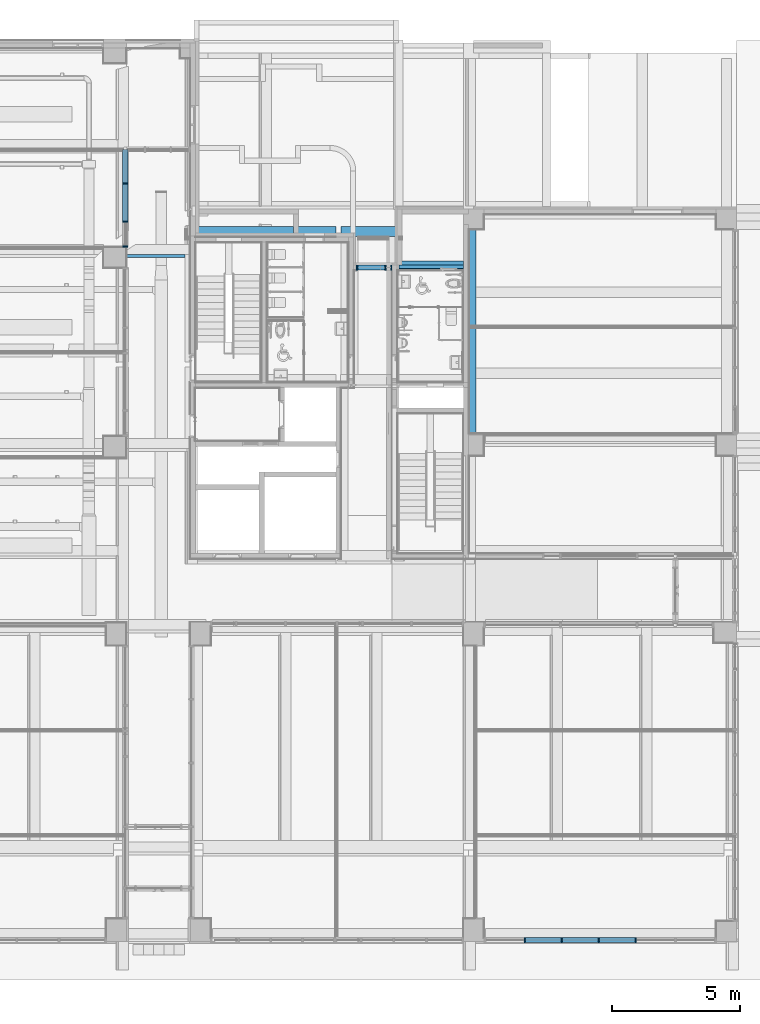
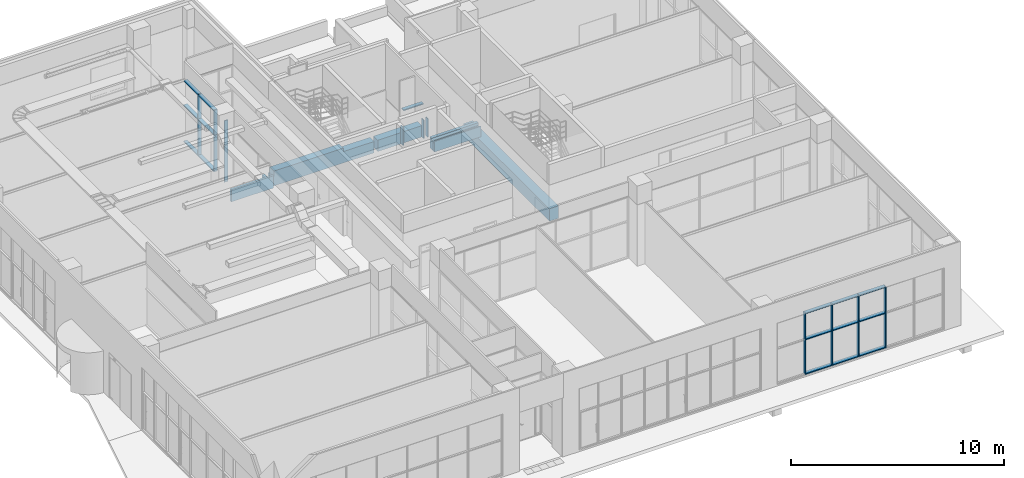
# One storey, part 10 of 100: 33 members, 5 beams, 3 elements without a shape of their own.
"""IFC2X3 building model written with IfcOpenShell, lengths in millimetres."""

from ifc_helpers import new_model, entity, si_unit, converted_unit, derived_unit, direction, frame, frame_2d, origin, origin_2d_with_axis, place, context, subcontext, project, spatial, polyline, rectangle, outline, extrude, source, transform, mapped, material, material_list, type_object, type_shapes, element, aggregate, save


model = new_model("IFC2X3")

# Units and contexts
model_context = context("Model", 3, precision=0.01, world=origin(), true_north=direction((6.123031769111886e-17, 1.0)))
body_context = subcontext(model_context, "Body", "Model", "MODEL_VIEW")
ifc_project = project(units=[si_unit("LENGTHUNIT", "METRE", prefix="MILLI"), si_unit("AREAUNIT", "SQUARE_METRE"), si_unit("VOLUMEUNIT", "CUBIC_METRE"), converted_unit("PLANEANGLEUNIT", "DEGREE", entity("IfcRatioMeasure", 0.017453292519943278), si_unit("PLANEANGLEUNIT", "RADIAN"), dimensions=[0, 0, 0, 0, 0, 0, 0]), si_unit("MASSUNIT", "GRAM", prefix="KILO"), derived_unit("MASSDENSITYUNIT", [(si_unit("MASSUNIT", "GRAM", prefix="KILO"), 1), (si_unit("LENGTHUNIT", "METRE"), -3)]), derived_unit("MOMENTOFINERTIAUNIT", [(si_unit("LENGTHUNIT", "METRE"), 4)]), si_unit("TIMEUNIT", "SECOND"), si_unit("FREQUENCYUNIT", "HERTZ"), si_unit("THERMODYNAMICTEMPERATUREUNIT", "DEGREE_CELSIUS"), derived_unit("THERMALTRANSMITTANCEUNIT", [(si_unit("MASSUNIT", "GRAM", prefix="KILO"), 1), (si_unit("THERMODYNAMICTEMPERATUREUNIT", "KELVIN"), -1), (si_unit("TIMEUNIT", "SECOND"), -3)]), derived_unit("VOLUMETRICFLOWRATEUNIT", [(si_unit("LENGTHUNIT", "METRE"), 3), (si_unit("TIMEUNIT", "SECOND"), -1)]), derived_unit("MASSFLOWRATEUNIT", [(si_unit("MASSUNIT", "GRAM", prefix="KILO"), 1), (si_unit("TIMEUNIT", "SECOND"), -1)]), derived_unit("ROTATIONALFREQUENCYUNIT", [(si_unit("TIMEUNIT", "SECOND"), -1)]), si_unit("ELECTRICCURRENTUNIT", "AMPERE"), si_unit("ELECTRICVOLTAGEUNIT", "VOLT"), si_unit("POWERUNIT", "WATT"), si_unit("FORCEUNIT", "NEWTON", prefix="KILO"), si_unit("ILLUMINANCEUNIT", "LUX"), si_unit("LUMINOUSFLUXUNIT", "LUMEN"), si_unit("LUMINOUSINTENSITYUNIT", "CANDELA"), derived_unit("USERDEFINED", [(si_unit("MASSUNIT", "GRAM", prefix="KILO"), -1), (si_unit("LENGTHUNIT", "METRE"), -2), (si_unit("TIMEUNIT", "SECOND"), 3), (si_unit("LUMINOUSFLUXUNIT", "LUMEN"), 1)]), derived_unit("SOUNDPOWERUNIT", [(si_unit("MASSUNIT", "GRAM", prefix="KILO"), 1), (si_unit("LENGTHUNIT", "METRE"), 2), (si_unit("TIMEUNIT", "SECOND"), -3)]), derived_unit("SOUNDPRESSUREUNIT", [(si_unit("MASSUNIT", "GRAM", prefix="KILO"), 1), (si_unit("LENGTHUNIT", "METRE"), -1), (si_unit("TIMEUNIT", "SECOND"), -2)]), derived_unit("LINEARVELOCITYUNIT", [(si_unit("LENGTHUNIT", "METRE"), 1), (si_unit("TIMEUNIT", "SECOND"), -1)]), si_unit("PRESSUREUNIT", "PASCAL"), derived_unit("USERDEFINED", [(si_unit("LENGTHUNIT", "METRE"), -2), (si_unit("MASSUNIT", "GRAM", prefix="KILO"), 1), (si_unit("TIMEUNIT", "SECOND"), -2)]), derived_unit("LINEARFORCEUNIT", [(si_unit("MASSUNIT", "GRAM", prefix="KILO"), 1), (si_unit("LENGTHUNIT", "METRE"), 1), (si_unit("TIMEUNIT", "SECOND"), -2), (si_unit("LENGTHUNIT", "METRE"), -1)]), derived_unit("PLANARFORCEUNIT", [(si_unit("MASSUNIT", "GRAM", prefix="KILO"), 1), (si_unit("LENGTHUNIT", "METRE"), 1), (si_unit("TIMEUNIT", "SECOND"), -2), (si_unit("LENGTHUNIT", "METRE"), -2)])], contexts=[model_context])

# Site, building, storey
site_placement = place(None, frame((-14167.972527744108, -657.2125860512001, 0.0)))
site = spatial("IfcSite", under=ifc_project, at=site_placement, Name="Default", CompositionType="ELEMENT")
building_placement = place(site_placement, origin())
building = spatial("IfcBuilding", under=site, at=building_placement, Name="Sample Building", CompositionType="ELEMENT")
storey_placement = place(building_placement, origin())
storey = spatial("IfcBuildingStorey", under=building, at=storey_placement, Name="지상 1층", CompositionType="ELEMENT", Elevation=0.0)

# Curtain wall, members
curtain_wall_type = type_object("IfcCurtainWallType", Name="커튼월:CW112-스테인리스 스틸 커튼월", PredefinedType="NOTDEFINED")
curtain_wall_1_placement = place(storey_placement, origin())
curtain_wall_1 = element("IfcCurtainWall", 1, at=curtain_wall_1_placement, inside=storey, type_object=curtain_wall_type, Name="커튼월:CW112-스테인리스 스틸 커튼월", ObjectType="커튼월:CW112-스테인리스 스틸 커튼월")
ifc_material_1 = material(Name="<Unnamed>")
member_type_1 = type_object("IfcMemberType", Name="직사각형 멀리언:CW200-직사각형 멀리언 50x200mm", PredefinedType="MULLION", material=ifc_material_1)
shared_shape_1 = source(origin(), body_context, "Body", "SweptSolid", [
    extrude(rectangle(XDim=200.0, YDim=50.0, at=origin_2d_with_axis()), frame((-25.0, 0.0, -1420.0), z_axis=(0.0, 0.0, 1.0), x_axis=(0.0, -1.0, 0.0)), (0.0, 0.0, 1.0), 1420.0000000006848),
])
type_shapes(member_type_1, [shared_shape_1])
member_1_placement = place(curtain_wall_1_placement, frame((27522.955141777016, 27757.195169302, 3600.0), z_axis=(0.0, 0.0, 1.0), x_axis=(0.0, -1.0, 0.0)))
member_1 = element("IfcMember", 2, at=member_1_placement, type_object=member_type_1, material=ifc_material_1, Name="직사각형 멀리언:CW200-직사각형 멀리언 50x200mm", ObjectType="직사각형 멀리언:CW200-직사각형 멀리언 50x200mm", context=body_context, shape_type="MappedRepresentation", body=[
    mapped(shared_shape_1, transform((0.0, 0.0, 0.0), scale=1.0)),
])
member_type_2 = type_object("IfcMemberType", Name="직사각형 멀리언:CW200-직사각형 멀리언 50x200mm", PredefinedType="MULLION", material=ifc_material_1)
shared_shape_2 = source(origin(), body_context, "Body", "SweptSolid", [
    extrude(rectangle(XDim=200.0, YDim=50.0, at=origin_2d_with_axis()), frame((0.0, 0.0, -2100.0), z_axis=(0.0, 0.0, 1.0), x_axis=(0.0, -1.0, 0.0)), (0.0, 0.0, 1.0), 2100.0),
])
type_shapes(member_type_2, [shared_shape_2])
member_2_placement = place(curtain_wall_1_placement, frame((27522.955141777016, 28757.21230799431, 80.0), z_axis=(0.0, 0.0, -1.0), x_axis=(0.0, 1.0, 0.0)))
member_2 = element("IfcMember", 3, at=member_2_placement, type_object=member_type_2, material=ifc_material_1, Name="직사각형 멀리언:CW200-직사각형 멀리언 50x200mm", ObjectType="직사각형 멀리언:CW200-직사각형 멀리언 50x200mm", context=body_context, shape_type="MappedRepresentation", body=[
    mapped(shared_shape_2, transform((0.0, 0.0, 0.0), scale=1.0)),
])
member_3_placement = place(curtain_wall_1_placement, frame((27522.955141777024, 30257.21230799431, 80.0), z_axis=(0.0, 0.0, -1.0), x_axis=(0.0, 1.0, 0.0)))
member_3 = element("IfcMember", 4, at=member_3_placement, type_object=member_type_2, material=ifc_material_1, Name="직사각형 멀리언:CW200-직사각형 멀리언 50x200mm", ObjectType="직사각형 멀리언:CW200-직사각형 멀리언 50x200mm", context=body_context, shape_type="MappedRepresentation", body=[
    mapped(shared_shape_2, transform((0.0, 0.0, 0.0), scale=1.0)),
])
member_type_3 = type_object("IfcMemberType", Name="직사각형 멀리언:CW200-직사각형 멀리언 50x200mm", PredefinedType="MULLION", material=ifc_material_1)
shared_shape_3 = source(origin(), body_context, "Body", "SweptSolid", [
    extrude(rectangle(XDim=200.0, YDim=50.0, at=origin_2d_with_axis()), frame((0.0, 0.0, -1420.0), z_axis=(0.0, 0.0, 1.0), x_axis=(0.0, -1.0, 0.0)), (0.0, 0.0, 1.0), 1420.0000000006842),
])
type_shapes(member_type_3, [shared_shape_3])
member_4_placement = place(curtain_wall_1_placement, frame((27522.955141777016, 28757.21230799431, 2180.0), z_axis=(0.0, 0.0, -1.0), x_axis=(0.0, 1.0, 0.0)))
member_4 = element("IfcMember", 5, at=member_4_placement, type_object=member_type_3, material=ifc_material_1, Name="직사각형 멀리언:CW200-직사각형 멀리언 50x200mm", ObjectType="직사각형 멀리언:CW200-직사각형 멀리언 50x200mm", context=body_context, shape_type="MappedRepresentation", body=[
    mapped(shared_shape_3, transform((0.0, 0.0, 0.0), scale=1.0)),
])
member_5_placement = place(curtain_wall_1_placement, frame((27522.955141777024, 30257.21230799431, 2180.0), z_axis=(0.0, 0.0, -1.0), x_axis=(0.0, 1.0, 0.0)))
member_5 = element("IfcMember", 6, at=member_5_placement, type_object=member_type_3, material=ifc_material_1, Name="직사각형 멀리언:CW200-직사각형 멀리언 50x200mm", ObjectType="직사각형 멀리언:CW200-직사각형 멀리언 50x200mm", context=body_context, shape_type="MappedRepresentation", body=[
    mapped(shared_shape_3, transform((0.0, 0.0, 0.0), scale=1.0)),
])
member_type_4 = type_object("IfcMemberType", Name="직사각형 멀리언:CW200-직사각형 멀리언 50x200mm", PredefinedType="MULLION", material=ifc_material_1)
shared_shape_4 = source(origin(), body_context, "Body", "SweptSolid", [
    extrude(rectangle(XDim=200.0, YDim=50.0, at=origin_2d_with_axis()), frame((-25.0, 0.0, -1450.0), z_axis=(0.0, 0.0, 1.0), x_axis=(0.0, -1.0, 0.0)), (0.0, 0.0, 1.0), 1450.0000000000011),
])
type_shapes(member_type_4, [shared_shape_4])
member_6_placement = place(curtain_wall_1_placement, frame((27522.955141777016, 28782.21230799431, 80.0), z_axis=(0.0, -1.0, 0.0), x_axis=(0.0, 0.0, -1.0)))
member_6 = element("IfcMember", 7, at=member_6_placement, type_object=member_type_4, material=ifc_material_1, Name="직사각형 멀리언:CW200-직사각형 멀리언 50x200mm", ObjectType="직사각형 멀리언:CW200-직사각형 멀리언 50x200mm", context=body_context, shape_type="MappedRepresentation", body=[
    mapped(shared_shape_4, transform((0.0, 0.0, 0.0), scale=1.0)),
])
member_type_5 = type_object("IfcMemberType", Name="직사각형 멀리언:CW200-직사각형 멀리언 50x200mm", PredefinedType="MULLION", material=ifc_material_1)
shared_shape_5 = source(origin(), body_context, "Body", "SweptSolid", [
    extrude(rectangle(XDim=200.0, YDim=50.0, at=origin_2d_with_axis()), frame((0.0, 0.0, -1450.0), z_axis=(0.0, 0.0, 1.0), x_axis=(0.0, -1.0, 0.0)), (0.0, 0.0, 1.0), 1450.000000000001),
])
type_shapes(member_type_5, [shared_shape_5])
member_7_placement = place(curtain_wall_1_placement, frame((27522.955141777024, 30232.212307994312, 2180.0), z_axis=(0.0, 1.0, 0.0), x_axis=(0.0, 0.0, 1.0)))
member_7 = element("IfcMember", 8, at=member_7_placement, type_object=member_type_5, material=ifc_material_1, Name="직사각형 멀리언:CW200-직사각형 멀리언 50x200mm", ObjectType="직사각형 멀리언:CW200-직사각형 멀리언 50x200mm", context=body_context, shape_type="MappedRepresentation", body=[
    mapped(shared_shape_5, transform((0.0, 0.0, 0.0), scale=1.0)),
])
member_type_6 = type_object("IfcMemberType", Name="직사각형 멀리언:CW200-직사각형 멀리언 50x200mm", PredefinedType="MULLION", material=ifc_material_1)
shared_shape_6 = source(origin(), body_context, "Body", "SweptSolid", [
    extrude(rectangle(XDim=200.0, YDim=50.0, at=origin_2d_with_axis()), frame((-25.0, 0.0, -1450.0), z_axis=(0.0, 0.0, 1.0), x_axis=(0.0, -1.0, 0.0)), (0.0, 0.0, 1.0), 1450.0000000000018),
])
type_shapes(member_type_6, [shared_shape_6])
member_8_placement = place(curtain_wall_1_placement, frame((27522.955141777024, 30232.212307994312, 3600.0), z_axis=(0.0, 1.0, 0.0), x_axis=(0.0, 0.0, 1.0)))
member_8 = element("IfcMember", 9, at=member_8_placement, type_object=member_type_6, material=ifc_material_1, Name="직사각형 멀리언:CW200-직사각형 멀리언 50x200mm", ObjectType="직사각형 멀리언:CW200-직사각형 멀리언 50x200mm", context=body_context, shape_type="MappedRepresentation", body=[
    mapped(shared_shape_6, transform((0.0, 0.0, 0.0), scale=1.0)),
])

# Curtain wall, member
curtain_wall_2_placement = place(storey_placement, origin())
curtain_wall_2 = element("IfcCurtainWall", 10, at=curtain_wall_2_placement, inside=storey, type_object=curtain_wall_type, Name="커튼월:CW112-스테인리스 스틸 커튼월", ObjectType="커튼월:CW112-스테인리스 스틸 커튼월")
member_type_7 = type_object("IfcMemberType", Name="직사각형 멀리언:CW200-직사각형 멀리언 50x200mm", PredefinedType="MULLION", material=ifc_material_1)
shared_shape_7 = source(origin(), body_context, "Body", "SweptSolid", [
    extrude(rectangle(XDim=200.0, YDim=50.0, at=origin_2d_with_axis()), frame((-25.0, 0.0, -1075.0), z_axis=(0.0, 0.0, 1.0), x_axis=(0.0, -1.0, 0.0)), (0.0, 0.0, 1.0), 1074.9999999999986),
])
type_shapes(member_type_7, [shared_shape_7])
member_9_placement = place(curtain_wall_2_placement, frame((37692.963798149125, 26957.21229514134, 1550.0), z_axis=(1.0, 0.0, 0.0), x_axis=(0.0, 0.0, 1.0)))
member_9 = element("IfcMember", 11, at=member_9_placement, type_object=member_type_7, material=ifc_material_1, Name="직사각형 멀리언:CW200-직사각형 멀리언 50x200mm", ObjectType="직사각형 멀리언:CW200-직사각형 멀리언 50x200mm", context=body_context, shape_type="MappedRepresentation", body=[
    mapped(shared_shape_7, transform((0.0, 0.0, 0.0), scale=1.0)),
])

# Member
member_type_8 = type_object("IfcMemberType", Name="직사각형 멀리언:CW200-직사각형 멀리언 50x200mm", PredefinedType="MULLION", material=ifc_material_1)
shared_shape_8 = source(origin(), body_context, "Body", "SweptSolid", [
    extrude(rectangle(XDim=200.0, YDim=50.0, at=origin_2d_with_axis()), frame((-25.0, 0.0, -2100.0), z_axis=(0.0, 0.0, 1.0), x_axis=(0.0, -1.0, 0.0)), (0.0, 0.0, 1.0), 2099.9999999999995),
])
type_shapes(member_type_8, [shared_shape_8])
member_10_placement = place(curtain_wall_1_placement, frame((27522.955141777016, 27757.195169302, 2180.0), z_axis=(0.0, 0.0, 1.0), x_axis=(0.0, -1.0, 0.0)))
member_10 = element("IfcMember", 12, at=member_10_placement, type_object=member_type_8, material=ifc_material_1, Name="직사각형 멀리언:CW200-직사각형 멀리언 50x200mm", ObjectType="직사각형 멀리언:CW200-직사각형 멀리언 50x200mm", context=body_context, shape_type="MappedRepresentation", body=[
    mapped(shared_shape_8, transform((0.0, 0.0, 0.0), scale=1.0)),
])

# Curtain wall, members
curtain_wall_3_placement = place(storey_placement, origin())
curtain_wall_3 = element("IfcCurtainWall", 13, at=curtain_wall_3_placement, inside=storey, type_object=curtain_wall_type, Name="커튼월:CW112-스테인리스 스틸 커튼월", ObjectType="커튼월:CW112-스테인리스 스틸 커튼월")
member_type_9 = type_object("IfcMemberType", Name="직사각형 멀리언:CW200-직사각형 멀리언 50x200mm", PredefinedType="MULLION", material=ifc_material_1)
shared_shape_9 = source(origin(), body_context, "Body", "SweptSolid", [
    extrude(rectangle(XDim=200.0, YDim=50.0, at=origin_2d_with_axis()), frame((0.0, 0.0, -2000.0), z_axis=(0.0, 0.0, 1.0), x_axis=(0.0, -1.0, 0.0)), (0.0, 0.0, 1.0), 2000.0000000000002),
])
type_shapes(member_type_9, [shared_shape_9])
member_11_placement = place(curtain_wall_3_placement, frame((43168.32629889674, 619.7122951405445, 80.0), z_axis=(0.0, 0.0, -1.0), x_axis=(1.0, 0.0, 0.0)))
member_11 = element("IfcMember", 14, at=member_11_placement, type_object=member_type_9, material=ifc_material_1, Name="직사각형 멀리언:CW200-직사각형 멀리언 50x200mm", ObjectType="직사각형 멀리언:CW200-직사각형 멀리언 50x200mm", context=body_context, shape_type="MappedRepresentation", body=[
    mapped(shared_shape_9, transform((0.0, 0.0, 0.0), scale=1.0)),
])
member_12_placement = place(curtain_wall_3_placement, frame((44618.32629889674, 619.7122951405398, 80.0), z_axis=(0.0, 0.0, -1.0), x_axis=(1.0, 0.0, 0.0)))
member_12 = element("IfcMember", 15, at=member_12_placement, type_object=member_type_9, material=ifc_material_1, Name="직사각형 멀리언:CW200-직사각형 멀리언 50x200mm", ObjectType="직사각형 멀리언:CW200-직사각형 멀리언 50x200mm", context=body_context, shape_type="MappedRepresentation", body=[
    mapped(shared_shape_9, transform((0.0, 0.0, 0.0), scale=1.0)),
])
member_13_placement = place(curtain_wall_3_placement, frame((46068.32629889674, 619.712295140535, 80.0), z_axis=(0.0, 0.0, -1.0), x_axis=(1.0, 0.0, 0.0)))
member_13 = element("IfcMember", 16, at=member_13_placement, type_object=member_type_9, material=ifc_material_1, Name="직사각형 멀리언:CW200-직사각형 멀리언 50x200mm", ObjectType="직사각형 멀리언:CW200-직사각형 멀리언 50x200mm", context=body_context, shape_type="MappedRepresentation", body=[
    mapped(shared_shape_9, transform((0.0, 0.0, 0.0), scale=1.0)),
])
member_14_placement = place(curtain_wall_3_placement, frame((47518.32629889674, 619.7122951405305, 80.0), z_axis=(0.0, 0.0, -1.0), x_axis=(1.0, 0.0, 0.0)))
member_14 = element("IfcMember", 17, at=member_14_placement, type_object=member_type_9, material=ifc_material_1, Name="직사각형 멀리언:CW200-직사각형 멀리언 50x200mm", ObjectType="직사각형 멀리언:CW200-직사각형 멀리언 50x200mm", context=body_context, shape_type="MappedRepresentation", body=[
    mapped(shared_shape_9, transform((0.0, 0.0, 0.0), scale=1.0)),
])
member_type_10 = type_object("IfcMemberType", Name="직사각형 멀리언:CW200-직사각형 멀리언 50x200mm", PredefinedType="MULLION", material=ifc_material_1)
shared_shape_10 = source(origin(), body_context, "Body", "SweptSolid", [
    extrude(rectangle(XDim=200.0, YDim=50.0, at=origin_2d_with_axis()), frame((0.0, 0.0, -1520.0), z_axis=(0.0, 0.0, 1.0), x_axis=(0.0, -1.0, 0.0)), (0.0, 0.0, 1.0), 1520.0000000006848),
])
type_shapes(member_type_10, [shared_shape_10])
member_15_placement = place(curtain_wall_3_placement, frame((43168.32629889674, 619.7122951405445, 2080.0), z_axis=(0.0, 0.0, -1.0), x_axis=(1.0, 0.0, 0.0)))
member_15 = element("IfcMember", 18, at=member_15_placement, type_object=member_type_10, material=ifc_material_1, Name="직사각형 멀리언:CW200-직사각형 멀리언 50x200mm", ObjectType="직사각형 멀리언:CW200-직사각형 멀리언 50x200mm", context=body_context, shape_type="MappedRepresentation", body=[
    mapped(shared_shape_10, transform((0.0, 0.0, 0.0), scale=1.0)),
])
member_16_placement = place(curtain_wall_3_placement, frame((44618.32629889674, 619.7122951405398, 2080.0), z_axis=(0.0, 0.0, -1.0), x_axis=(1.0, 0.0, 0.0)))
member_16 = element("IfcMember", 19, at=member_16_placement, type_object=member_type_10, material=ifc_material_1, Name="직사각형 멀리언:CW200-직사각형 멀리언 50x200mm", ObjectType="직사각형 멀리언:CW200-직사각형 멀리언 50x200mm", context=body_context, shape_type="MappedRepresentation", body=[
    mapped(shared_shape_10, transform((0.0, 0.0, 0.0), scale=1.0)),
])
member_17_placement = place(curtain_wall_3_placement, frame((46068.32629889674, 619.712295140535, 2080.0), z_axis=(0.0, 0.0, -1.0), x_axis=(1.0, 0.0, 0.0)))
member_17 = element("IfcMember", 20, at=member_17_placement, type_object=member_type_10, material=ifc_material_1, Name="직사각형 멀리언:CW200-직사각형 멀리언 50x200mm", ObjectType="직사각형 멀리언:CW200-직사각형 멀리언 50x200mm", context=body_context, shape_type="MappedRepresentation", body=[
    mapped(shared_shape_10, transform((0.0, 0.0, 0.0), scale=1.0)),
])
member_18_placement = place(curtain_wall_3_placement, frame((47518.32629889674, 619.7122951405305, 2080.0), z_axis=(0.0, 0.0, -1.0), x_axis=(1.0, 0.0, 0.0)))
member_18 = element("IfcMember", 21, at=member_18_placement, type_object=member_type_10, material=ifc_material_1, Name="직사각형 멀리언:CW200-직사각형 멀리언 50x200mm", ObjectType="직사각형 멀리언:CW200-직사각형 멀리언 50x200mm", context=body_context, shape_type="MappedRepresentation", body=[
    mapped(shared_shape_10, transform((0.0, 0.0, 0.0), scale=1.0)),
])
member_type_11 = type_object("IfcMemberType", Name="직사각형 멀리언:CW200-직사각형 멀리언 50x200mm", PredefinedType="MULLION", material=ifc_material_1)
shared_shape_11 = source(origin(), body_context, "Body", "SweptSolid", [
    extrude(rectangle(XDim=200.0, YDim=50.0, at=origin_2d_with_axis()), frame((-25.0, 0.0, -1400.0), z_axis=(0.0, 0.0, 1.0), x_axis=(0.0, -1.0, 0.0)), (0.0, 0.0, 1.0), 1399.9999999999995),
])
type_shapes(member_type_11, [shared_shape_11])
member_19_placement = place(curtain_wall_3_placement, frame((43193.32629889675, 619.7122951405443, 80.0), z_axis=(-1.0, 0.0, 0.0), x_axis=(0.0, 0.0, -1.0)))
member_19 = element("IfcMember", 22, at=member_19_placement, type_object=member_type_11, material=ifc_material_1, Name="직사각형 멀리언:CW200-직사각형 멀리언 50x200mm", ObjectType="직사각형 멀리언:CW200-직사각형 멀리언 50x200mm", context=body_context, shape_type="MappedRepresentation", body=[
    mapped(shared_shape_11, transform((0.0, 0.0, 0.0), scale=1.0)),
])
member_20_placement = place(curtain_wall_3_placement, frame((44643.32629889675, 619.7122951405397, 80.0), z_axis=(-1.0, 0.0, 0.0), x_axis=(0.0, 0.0, -1.0)))
member_20 = element("IfcMember", 23, at=member_20_placement, type_object=member_type_11, material=ifc_material_1, Name="직사각형 멀리언:CW200-직사각형 멀리언 50x200mm", ObjectType="직사각형 멀리언:CW200-직사각형 멀리언 50x200mm", context=body_context, shape_type="MappedRepresentation", body=[
    mapped(shared_shape_11, transform((0.0, 0.0, 0.0), scale=1.0)),
])
member_21_placement = place(curtain_wall_3_placement, frame((46093.32629889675, 619.7122951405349, 80.0), z_axis=(-1.0, 0.0, 0.0), x_axis=(0.0, 0.0, -1.0)))
member_21 = element("IfcMember", 24, at=member_21_placement, type_object=member_type_11, material=ifc_material_1, Name="직사각형 멀리언:CW200-직사각형 멀리언 50x200mm", ObjectType="직사각형 멀리언:CW200-직사각형 멀리언 50x200mm", context=body_context, shape_type="MappedRepresentation", body=[
    mapped(shared_shape_11, transform((0.0, 0.0, 0.0), scale=1.0)),
])
member_type_12 = type_object("IfcMemberType", Name="직사각형 멀리언:CW200-직사각형 멀리언 50x200mm", PredefinedType="MULLION", material=ifc_material_1)
shared_shape_12 = source(origin(), body_context, "Body", "SweptSolid", [
    extrude(rectangle(XDim=200.0, YDim=50.0, at=origin_2d_with_axis()), frame((0.0, 0.0, -1400.0), z_axis=(0.0, 0.0, 1.0), x_axis=(0.0, -1.0, 0.0)), (0.0, 0.0, 1.0), 1399.9999999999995),
])
type_shapes(member_type_12, [shared_shape_12])
member_22_placement = place(curtain_wall_3_placement, frame((44593.32629889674, 619.7122951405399, 2080.0), z_axis=(1.0, 0.0, 0.0), x_axis=(0.0, 0.0, 1.0)))
member_22 = element("IfcMember", 25, at=member_22_placement, type_object=member_type_12, material=ifc_material_1, Name="직사각형 멀리언:CW200-직사각형 멀리언 50x200mm", ObjectType="직사각형 멀리언:CW200-직사각형 멀리언 50x200mm", context=body_context, shape_type="MappedRepresentation", body=[
    mapped(shared_shape_12, transform((0.0, 0.0, 0.0), scale=1.0)),
])
member_23_placement = place(curtain_wall_3_placement, frame((46043.32629889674, 619.7122951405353, 2080.0), z_axis=(1.0, 0.0, 0.0), x_axis=(0.0, 0.0, 1.0)))
member_23 = element("IfcMember", 26, at=member_23_placement, type_object=member_type_12, material=ifc_material_1, Name="직사각형 멀리언:CW200-직사각형 멀리언 50x200mm", ObjectType="직사각형 멀리언:CW200-직사각형 멀리언 50x200mm", context=body_context, shape_type="MappedRepresentation", body=[
    mapped(shared_shape_12, transform((0.0, 0.0, 0.0), scale=1.0)),
])
member_24_placement = place(curtain_wall_3_placement, frame((47493.32629889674, 619.7122951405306, 2080.0), z_axis=(1.0, 0.0, 0.0), x_axis=(0.0, 0.0, 1.0)))
member_24 = element("IfcMember", 27, at=member_24_placement, type_object=member_type_12, material=ifc_material_1, Name="직사각형 멀리언:CW200-직사각형 멀리언 50x200mm", ObjectType="직사각형 멀리언:CW200-직사각형 멀리언 50x200mm", context=body_context, shape_type="MappedRepresentation", body=[
    mapped(shared_shape_12, transform((0.0, 0.0, 0.0), scale=1.0)),
])
member_type_13 = type_object("IfcMemberType", Name="직사각형 멀리언:CW200-직사각형 멀리언 50x200mm", PredefinedType="MULLION", material=ifc_material_1)
shared_shape_13 = source(origin(), body_context, "Body", "SweptSolid", [
    extrude(rectangle(XDim=200.0, YDim=50.0, at=origin_2d_with_axis()), frame((-25.0, 0.0, -1400.0), z_axis=(0.0, 0.0, 1.0), x_axis=(0.0, -1.0, 0.0)), (0.0, 0.0, 1.0), 1399.9999999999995),
])
type_shapes(member_type_13, [shared_shape_13])
member_25_placement = place(curtain_wall_3_placement, frame((44593.32629889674, 619.7122951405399, 3600.0), z_axis=(1.0, 0.0, 0.0), x_axis=(0.0, 0.0, 1.0)))
member_25 = element("IfcMember", 28, at=member_25_placement, type_object=member_type_13, material=ifc_material_1, Name="직사각형 멀리언:CW200-직사각형 멀리언 50x200mm", ObjectType="직사각형 멀리언:CW200-직사각형 멀리언 50x200mm", context=body_context, shape_type="MappedRepresentation", body=[
    mapped(shared_shape_13, transform((0.0, 0.0, 0.0), scale=1.0)),
])
member_26_placement = place(curtain_wall_3_placement, frame((46043.32629889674, 619.7122951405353, 3600.0), z_axis=(1.0, 0.0, 0.0), x_axis=(0.0, 0.0, 1.0)))
member_26 = element("IfcMember", 29, at=member_26_placement, type_object=member_type_13, material=ifc_material_1, Name="직사각형 멀리언:CW200-직사각형 멀리언 50x200mm", ObjectType="직사각형 멀리언:CW200-직사각형 멀리언 50x200mm", context=body_context, shape_type="MappedRepresentation", body=[
    mapped(shared_shape_13, transform((0.0, 0.0, 0.0), scale=1.0)),
])
member_27_placement = place(curtain_wall_3_placement, frame((47493.32629889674, 619.7122951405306, 3600.0), z_axis=(1.0, 0.0, 0.0), x_axis=(0.0, 0.0, 1.0)))
member_27 = element("IfcMember", 30, at=member_27_placement, type_object=member_type_13, material=ifc_material_1, Name="직사각형 멀리언:CW200-직사각형 멀리언 50x200mm", ObjectType="직사각형 멀리언:CW200-직사각형 멀리언 50x200mm", context=body_context, shape_type="MappedRepresentation", body=[
    mapped(shared_shape_13, transform((0.0, 0.0, 0.0), scale=1.0)),
])
aggregate(curtain_wall_3, [member_19, member_22, member_11, member_15, member_25, member_20, member_23, member_12, member_16, member_26, member_21, member_24, member_13, member_17, member_27, member_14, member_18])

# Member
member_type_14 = type_object("IfcMemberType", Name="직사각형 멀리언:CW200-직사각형 멀리언 50x200mm", PredefinedType="MULLION", material=ifc_material_1)
shared_shape_14 = source(origin(), body_context, "Body", "SweptSolid", [
    extrude(rectangle(XDim=200.0, YDim=50.0, at=origin_2d_with_axis()), frame((-25.0, 0.0, -1050.0), z_axis=(0.0, 0.0, 1.0), x_axis=(0.0, -1.0, 0.0)), (0.0, 0.0, 1.0), 1050.0),
])
type_shapes(member_type_14, [shared_shape_14])
member_28_placement = place(curtain_wall_2_placement, frame((37967.96379814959, 26957.21229514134, -470.0), z_axis=(0.0, 0.0, -1.0), x_axis=(1.0, 0.0, 0.0)))
member_28 = element("IfcMember", 31, at=member_28_placement, type_object=member_type_14, material=ifc_material_1, Name="직사각형 멀리언:CW200-직사각형 멀리언 50x200mm", ObjectType="직사각형 멀리언:CW200-직사각형 멀리언 50x200mm", context=body_context, shape_type="MappedRepresentation", body=[
    mapped(shared_shape_14, transform((0.0, 0.0, 0.0), scale=1.0)),
])

member_type_15 = type_object("IfcMemberType", Name="직사각형 멀리언:CW200-직사각형 멀리언 50x200mm", PredefinedType="MULLION", material=ifc_material_1)
shared_shape_15 = source(origin(), body_context, "Body", "SweptSolid", [
    extrude(rectangle(XDim=200.0, YDim=50.0, at=origin_2d_with_axis()), frame((0.0, 0.0, -1050.0), z_axis=(0.0, 0.0, 1.0), x_axis=(0.0, -1.0, 0.0)), (0.0, 0.0, 1.0), 1050.0),
])
type_shapes(member_type_15, [shared_shape_15])
member_29_placement = place(curtain_wall_2_placement, frame((37717.963798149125, 26957.21229514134, -470.0), z_axis=(0.0, 0.0, -1.0), x_axis=(1.0, 0.0, 0.0)))
member_29 = element("IfcMember", 32, at=member_29_placement, type_object=member_type_15, material=ifc_material_1, Name="직사각형 멀리언:CW200-직사각형 멀리언 50x200mm", ObjectType="직사각형 멀리언:CW200-직사각형 멀리언 50x200mm", context=body_context, shape_type="MappedRepresentation", body=[
    mapped(shared_shape_15, transform((0.0, 0.0, 0.0), scale=1.0)),
])

member_type_16 = type_object("IfcMemberType", Name="직사각형 멀리언:CW200-직사각형 멀리언 50x200mm", PredefinedType="MULLION", material=ifc_material_1)
shared_shape_16 = source(origin(), body_context, "Body", "SweptSolid", [
    extrude(rectangle(XDim=200.0, YDim=50.0, at=origin_2d_with_axis()), frame((-25.0, 0.0, -1050.0), z_axis=(0.0, 0.0, 1.0), x_axis=(0.0, -1.0, 0.0)), (0.0, 0.0, 1.0), 1050.0),
])
type_shapes(member_type_16, [shared_shape_16])
member_30_placement = place(curtain_wall_2_placement, frame((36567.97249112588, 26957.212295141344, 580.0), z_axis=(0.0, 0.0, 1.0), x_axis=(-1.0, 0.0, 0.0)))
member_30 = element("IfcMember", 33, at=member_30_placement, type_object=member_type_16, material=ifc_material_1, Name="직사각형 멀리언:CW200-직사각형 멀리언 50x200mm", ObjectType="직사각형 멀리언:CW200-직사각형 멀리언 50x200mm", context=body_context, shape_type="MappedRepresentation", body=[
    mapped(shared_shape_16, transform((0.0, 0.0, 0.0), scale=1.0)),
])

aggregate(curtain_wall_2, [member_28, member_9, member_29, member_30])

member_type_17 = type_object("IfcMemberType", Name="직사각형 멀리언:CW200-직사각형 멀리언 50x200mm", PredefinedType="MULLION", material=ifc_material_1)
shared_shape_17 = source(origin(), body_context, "Body", "SweptSolid", [
    extrude(rectangle(XDim=200.0, YDim=50.0, at=origin_2d_with_axis()), frame((-25.0, 0.0, -1304.96544011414), z_axis=(0.0, 0.0, 1.0), x_axis=(0.0, -1.0, 0.0)), (0.0, 0.0, 1.0), 1304.9654401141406),
])
type_shapes(member_type_17, [shared_shape_17])
member_31_placement = place(curtain_wall_1_placement, frame((27522.955141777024, 31587.17774810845, 3600.0), z_axis=(0.0, 1.0, 0.0), x_axis=(0.0, 0.0, 1.0)))
member_31 = element("IfcMember", 34, at=member_31_placement, type_object=member_type_17, material=ifc_material_1, Name="직사각형 멀리언:CW200-직사각형 멀리언 50x200mm", ObjectType="직사각형 멀리언:CW200-직사각형 멀리언 50x200mm", context=body_context, shape_type="MappedRepresentation", body=[
    mapped(shared_shape_17, transform((0.0, 0.0, 0.0), scale=1.0)),
])

member_type_18 = type_object("IfcMemberType", Name="직사각형 멀리언:CW200-직사각형 멀리언 50x200mm", PredefinedType="MULLION", material=ifc_material_1)
shared_shape_18 = source(origin(), body_context, "Body", "SweptSolid", [
    extrude(rectangle(XDim=200.0, YDim=50.0, at=origin_2d_with_axis()), frame((-25.0, 0.0, -1304.9654401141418), z_axis=(0.0, 0.0, 1.0), x_axis=(0.0, -1.0, 0.0)), (0.0, 0.0, 1.0), 1304.9654401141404),
])
type_shapes(member_type_18, [shared_shape_18])
member_32_placement = place(curtain_wall_1_placement, frame((27522.955141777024, 30282.21230799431, 80.0), z_axis=(0.0, -1.0, 0.0), x_axis=(0.0, 0.0, -1.0)))
member_32 = element("IfcMember", 35, at=member_32_placement, type_object=member_type_18, material=ifc_material_1, Name="직사각형 멀리언:CW200-직사각형 멀리언 50x200mm", ObjectType="직사각형 멀리언:CW200-직사각형 멀리언 50x200mm", context=body_context, shape_type="MappedRepresentation", body=[
    mapped(shared_shape_18, transform((0.0, 0.0, 0.0), scale=1.0)),
])

member_type_19 = type_object("IfcMemberType", Name="직사각형 멀리언:CW200-직사각형 멀리언 50x200mm", PredefinedType="MULLION", material=ifc_material_1)
shared_shape_19 = source(origin(), body_context, "Body", "SweptSolid", [
    extrude(rectangle(XDim=200.0, YDim=50.0, at=origin_2d_with_axis()), frame((0.0, 0.0, -1304.965440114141), z_axis=(0.0, 0.0, 1.0), x_axis=(0.0, -1.0, 0.0)), (0.0, 0.0, 1.0), 1304.96544011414),
])
type_shapes(member_type_19, [shared_shape_19])
member_33_placement = place(curtain_wall_1_placement, frame((27522.955141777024, 31587.17774810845, 2180.0), z_axis=(0.0, 1.0, 0.0), x_axis=(0.0, 0.0, 1.0)))
member_33 = element("IfcMember", 36, at=member_33_placement, type_object=member_type_19, material=ifc_material_1, Name="직사각형 멀리언:CW200-직사각형 멀리언 50x200mm", ObjectType="직사각형 멀리언:CW200-직사각형 멀리언 50x200mm", context=body_context, shape_type="MappedRepresentation", body=[
    mapped(shared_shape_19, transform((0.0, 0.0, 0.0), scale=1.0)),
])

aggregate(curtain_wall_1, [member_31, member_1, member_6, member_2, member_8, member_32, member_3, member_10, member_7, member_33, member_4, member_5])

# Beams
ifc_material_2 = material(Name="KBIMS-콘크리트")
beam_type_1 = type_object("IfcBeamType", Name="BM111-철근콘크리트구조 보:BM110-철근 콘크리트구조 보_400 x 850_B1-1G3", PredefinedType="NOTDEFINED")
beam_1_placement = place(storey_placement, frame((27217.962965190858, 27557.21261704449, 0.0)))
element("IfcBeam", 37, at=beam_1_placement, inside=storey, type_object=beam_type_1, material=ifc_material_2, Name="BM111-철근콘크리트구조 보:BM110-철근 콘크리트구조 보_400 x 850_B1-1G3", ObjectType="BM111-철근콘크리트구조 보:BM110-철근 콘크리트구조 보_400 x 850_B1-1G3", context=body_context, shape_type="SweptSolid", body=[
    extrude(rectangle(XDim=700.0000000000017, YDim=113.86449812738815, at=frame_2d((0.0, 2.1671553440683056e-12), x_axis=(1.0, 0.0))), frame((350.0814246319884, -143.06775093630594, -500.0), z_axis=(1.0, 0.0, 0.0), x_axis=(0.0, 0.0, -1.0)), (0.0, 0.0, 1.0), 2298.0814246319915),
])
beam_type_2 = type_object("IfcBeamType", Name="BM111-철근콘크리트구조 보:BM110-철근 콘크리트구조 보_500 x 850_B1-1G5", PredefinedType="NOTDEFINED")
beam_2_placement = place(storey_placement, frame((41017.94644879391, 29257.212604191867, 0.0), z_axis=(0.0, 0.0, 1.0), x_axis=(0.0, -1.0, 0.0)))
element("IfcBeam", 38, at=beam_2_placement, inside=storey, type_object=beam_type_2, material=ifc_material_2, Name="BM111-철근콘크리트구조 보:BM110-철근 콘크리트구조 보_500 x 850_B1-1G5", ObjectType="BM111-철근콘크리트구조 보:BM110-철근 콘크리트구조 보_500 x 850_B1-1G5", context=body_context, shape_type="SweptSolid", body=[
    extrude(rectangle(XDim=700.0000000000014, YDim=500.00000000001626, at=frame_2d((1.4210854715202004e-13, -1.7323031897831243e-11), x_axis=(1.0, 0.0))), frame((799.9999871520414, 0.0, -2000.0), z_axis=(1.0, 0.0, 0.0), x_axis=(0.0, 0.0, -1.0)), (0.0, 0.0, 1.0), 8062.5003090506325),
])
ifc_material_list_1 = material_list([ifc_material_2, ifc_material_2, ifc_material_2])
ifc_material_list_2 = material_list([ifc_material_2, ifc_material_2, ifc_material_2])
beam_type_3 = type_object("IfcBeamType", Name="BM111-철근콘크리트구조 보:BM110-철근 콘크리트구조 보_400 x 850_1WG2", PredefinedType="BEAM", material=ifc_material_list_2)
shared_shape_20 = source(origin(), body_context, "Body", "SweptSolid", [
    extrude(outline(polyline([(-2280.2234780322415, -337.4999999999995), (1493.0638534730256, -337.4999999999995), (1493.0638534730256, -137.50000000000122), (3144.503150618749, -137.50000000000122), (3144.503150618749, 512.5000000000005), (-2357.343526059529, 512.5000000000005), (-2357.343526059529, -37.499999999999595), (-2280.223478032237, -37.499999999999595), (-2280.2234780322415, -337.4999999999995)])), frame((32623.469340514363, 28171.077115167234, -887.5000000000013), z_axis=(0.0, 1.0, 0.0), x_axis=(1.0, 0.0, 0.0)), (0.0, 0.0, 1.0), 400.0000000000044),
    extrude(rectangle(XDim=650.0000000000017, YDim=400.0000000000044, at=frame_2d((0.0, 0.0), x_axis=(0.0, 1.0))), frame((35967.972491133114, 28371.07711516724, -1075.0), z_axis=(1.0, 0.0, 0.0), x_axis=(0.0, 1.0, 0.0)), (0.0, 0.0, 1.0), 2399.999999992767),
    extrude(rectangle(XDim=550.0, YDim=400.0000000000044, at=frame_2d((-1.4210854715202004e-13, 28.711833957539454), x_axis=(1.0, 0.0))), frame((29943.245862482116, 28399.78894912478, -1125.0), z_axis=(1.0, 0.0, 0.0), x_axis=(0.0, 0.0, 1.0)), (0.0, 0.0, 1.0), 122.87995197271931),
])
type_shapes(beam_type_3, [shared_shape_20])
beam_3_placement = place(storey_placement, origin())
element("IfcBeam", 39, at=beam_3_placement, inside=storey, type_object=beam_type_3, material=ifc_material_list_1, Name="BM111-철근콘크리트구조 보:BM110-철근 콘크리트구조 보_400 x 850_1WG2", ObjectType="BM111-철근콘크리트구조 보:BM110-철근 콘크리트구조 보_400 x 850_1WG2", context=body_context, shape_type="MappedRepresentation", body=[
    mapped(shared_shape_20, transform((0.0, 0.0, 0.0), scale=1.0)),
])
beam_type_4 = type_object("IfcBeamType", Name="BM111-철근콘크리트구조 보:BM110-철근 콘크리트구조 보_300 x 800_1B6", PredefinedType="NOTDEFINED")
beam_4_placement = place(storey_placement, frame((38043.24589909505, 27071.077102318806, 0.0)))
element("IfcBeam", 40, at=beam_4_placement, inside=storey, type_object=beam_type_4, material=ifc_material_2, Name="BM111-철근콘크리트구조 보:BM110-철근 콘크리트구조 보_300 x 800_1B6", ObjectType="BM111-철근콘크리트구조 보:BM110-철근 콘크리트구조 보_300 x 800_1B6", context=body_context, shape_type="SweptSolid", body=[
    extrude(outline(polyline([(-116.66666666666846, -145.37839760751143), (383.33333333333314, -145.37839760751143), (383.3333333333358, 154.62160239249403), (-266.6666666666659, 154.62160239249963), (-266.6666666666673, -9.243204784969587), (-116.6666666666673, -9.243204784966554), (-116.66666666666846, -145.37839760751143)])), frame((200.0, -4.621602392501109, -1016.6666666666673), z_axis=(1.0, 0.0, 0.0), x_axis=(0.0, 0.0, -1.0)), (0.0, 0.0, 1.0), 2524.717899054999),
])
beam_5_placement = place(storey_placement, frame((38043.24589909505, 26957.21260419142, 0.0)))
element("IfcBeam", 41, at=beam_5_placement, inside=storey, type_object=beam_type_4, material=ifc_material_2, Name="BM111-철근콘크리트구조 보:BM110-철근 콘크리트구조 보_300 x 800_1B6", ObjectType="BM111-철근콘크리트구조 보:BM110-철근 콘크리트구조 보_300 x 800_1B6", context=body_context, shape_type="SweptSolid", body=[
    extrude(outline(polyline([(-233.3333333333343, -54.621396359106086), (366.66666666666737, -54.621396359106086), (366.66666666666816, 59.24310176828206), (-133.33333333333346, 59.243101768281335), (-133.3333333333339, -4.621705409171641), (-233.3333333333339, -4.621705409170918), (-233.3333333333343, -54.621396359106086)])), frame((200.0, -95.37860364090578, -1033.333333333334), z_axis=(1.0, 0.0, 0.0), x_axis=(0.0, 0.0, -1.0)), (0.0, 0.0, 1.0), 2524.7178990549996),
])

save(model, "model.ifc")
